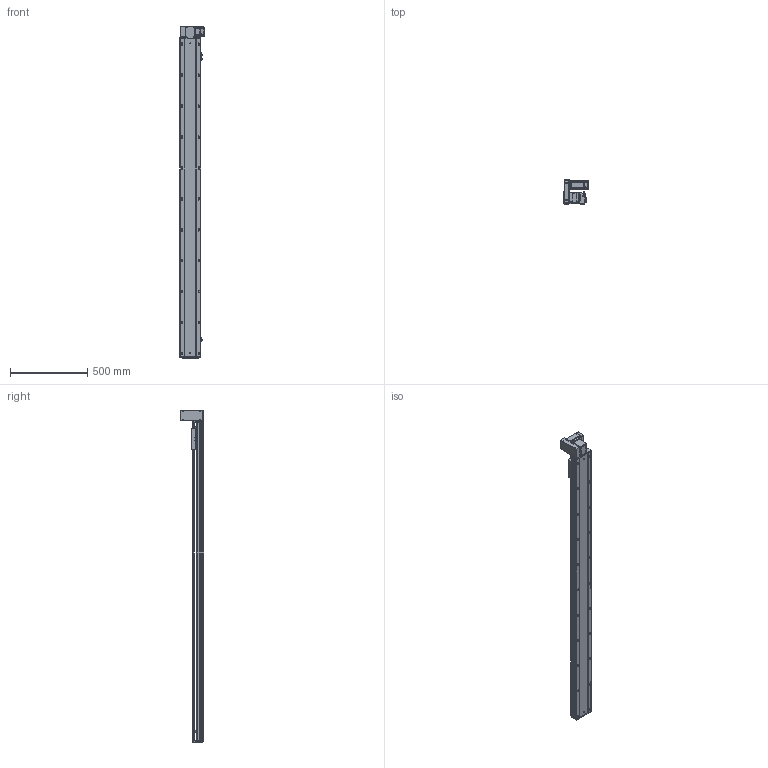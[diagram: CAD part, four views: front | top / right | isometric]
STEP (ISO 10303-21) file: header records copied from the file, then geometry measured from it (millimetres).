
FILE_DESCRIPTION (( 'STEP AP203' ), '1' );
FILE_NAME ('RY140-T-300-UL.SLDASM_1800.step', '2021-03-01T07:44:59', ( '盈信电脑' ), ( '东莞市道滘镇水果街19号' ), 'SwSTEP 2.0', 'SolidWorks 2012', '' );
FILE_SCHEMA (( 'CONFIG_CONTROL_DESIGN' ));
Products named in the file (18): 滅袉蝶18-10; RY140-T翋肮謫裔啣; RY140-T-300-UL.SLDASM_1800; RY120-T主同步轮轴承压盖; 侂狟400W侜督萇儂; RY120-T蹟翐M4; RY140-T萇儂欶; RY140-T翋肮祭謫盓傅釱; 15; RY140-T萇儂假蚾啣; RY120-T肮祭湍揤踡輸2; 覜茼ん672; RY120外置感应片(140共用）; RY120-T肮祭湍揤踡輸1; RY140-T-300-DL倰第奻裔啣_1800; RY140-T-300-DL倰第菁釱_1800; RY140綴裔啣; RY140肮祭謫臏賑輸
Assembly tree (23 placements, depth 3):
  RY140-T-300-UL.SLDASM_1800
    RY140-T-300-DL倰第菁釱_1800
    RY140肮祭謫臏賑輸
    RY140-T-300-DL倰第奻裔啣_1800
    RY140綴裔啣
    覜茼ん672  x3
    RY120外置感应片(140共用）
    RY120-T肮祭湍揤踡輸2
    RY120-T肮祭湍揤踡輸1
    RY140-T翋肮祭謫盓傅釱
    RY140-T萇儂假蚾啣
    侂狟400W侜督萇儂
      15
    RY120-T主同步轮轴承压盖
    RY120-T蹟翐M4  x4
    RY140-T萇儂欶
    滅袉蝶18-10  x2
    RY140-T翋肮謫裔啣
Bounding box: 157 x 152.5 x 2146 mm (x, y, z)
Volume: 5909860.3 mm3; surface area: 2305586.2 mm2
Topology: 22 solids, 22 shells, 2851 faces, 7829 edges, 4986 vertices
Faces by surface type: plane 1385, cylinder 1088, cone 278, bspline 100
Entity records: 90187 total; most frequent: CARTESIAN_POINT 21903, ORIENTED_EDGE 14026, DIRECTION 13405, EDGE_CURVE 7013, VERTEX_POINT 4585, AXIS2_PLACEMENT_3D 4504, VECTOR 4397, LINE 4397
